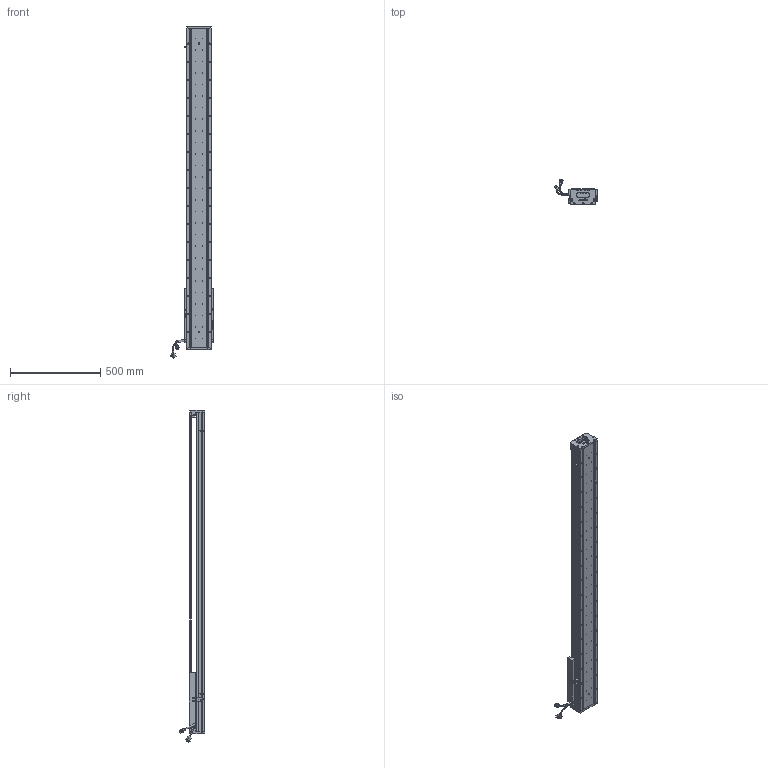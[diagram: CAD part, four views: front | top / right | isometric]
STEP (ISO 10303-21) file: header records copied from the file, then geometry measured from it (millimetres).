
FILE_DESCRIPTION (( 'STEP AP203' ), '1' );
FILE_NAME ('Z4-RY140D-1-L500-B-K.SLDASM_1400.step', '2021-05-17T08:16:28', ( '盈信电脑' ), ( '东莞市道滘镇水果街19号' ), 'SwSTEP 2.0', 'SolidWorks 2016', '' );
FILE_SCHEMA (( 'CONFIG_CONTROL_DESIGN' ));
Length unit declared in the file: millimetre
Products named in the file (36): SCREW-M1.6-3; Z4-RY140圉猾敕臏賑輸(21遴); SCALE-Part-1; HARNESS-Part-1; PSLH080_PSLF2; SHIELDPLATE; COVER-Part-1; SCREW-M1.7-1; LABEL-Part-1; SCREW-M1.6; 140雄赽晤鎢ん堤盄; SEAL; COVER; SCALE; Z4-RY140-L500直线电机模组底座_1400; Z-140詩湍傷裔啣; SCREW-M1.7; PBU_SHEET; Z4-RY140D-1-L500-B-K.SLDASM_1400; Z-RY140感应器672光电感应片; SEAL-Part-1; HARNESS-Part-2; 140-Z-臏賑輸盄裔(21遴); SCREW-M1.6-1; LABEL; SCREW-M1.6-2; HOLDER0; SCALE-Part-2; 榋妏寠巭燃_暯_M2_2; 詩湍奻揤裔; 140蚥薯蝶輸; 覜茼ん672; 詩湍狟揤裔; Z4-RY140-L500詩湍100mm遵_1400; 080黍杅芛假蚾釱21遴; HARNESS
Assembly tree (41 placements, depth 4):
  Z4-RY140D-1-L500-B-K.SLDASM_1400
    Z4-RY140-L500直线电机模组底座_1400
    Z-RY140感应器672光电感应片
    Z4-RY140圉猾敕臏賑輸(21遴)
    覜茼ん672  x3
    Z4-RY140-L500詩湍100mm遵_1400
    PSLH080_PSLF2
      SCALE
        SCALE-Part-1
        SCALE-Part-2
      HARNESS
        HARNESS-Part-1
        HARNESS-Part-2
      LABEL
        LABEL-Part-1
      COVER
        COVER-Part-1
      SEAL
        SEAL-Part-1
      榋妏寠巭燃_暯_M2_2
      SHIELDPLATE
      SCREW-M1.7
      SCREW-M1.7-1
      PBU_SHEET
      SCREW-M1.6
      SCREW-M1.6-1
      SCREW-M1.6-2
      SCREW-M1.6-3
      HOLDER0
    080黍杅芛假蚾釱21遴
    140-Z-臏賑輸盄裔(21遴)
    Z-140詩湍傷裔啣  x2
    詩湍狟揤裔  x2
    詩湍奻揤裔  x2
    140蚥薯蝶輸  x2
    140雄赽晤鎢ん堤盄
Bounding box: 239.83 x 143.88 x 1840.87 mm (x, y, z)
Volume: 6411186.3 mm3; surface area: 1641742 mm2
Topology: 36 solids, 36 shells, 3498 faces, 9372 edges, 5931 vertices
Faces by surface type: cylinder 1782, plane 1244, cone 350, torus 69, bspline 53
Entity records: 106932 total; most frequent: CARTESIAN_POINT 28677, ORIENTED_EDGE 15768, DIRECTION 15088, EDGE_CURVE 7884, AXIS2_PLACEMENT_3D 5590, VERTEX_POINT 5099, LINE 3908, VECTOR 3908
